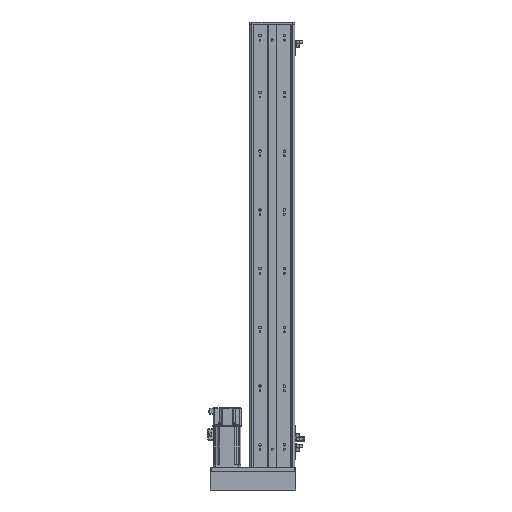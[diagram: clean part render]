
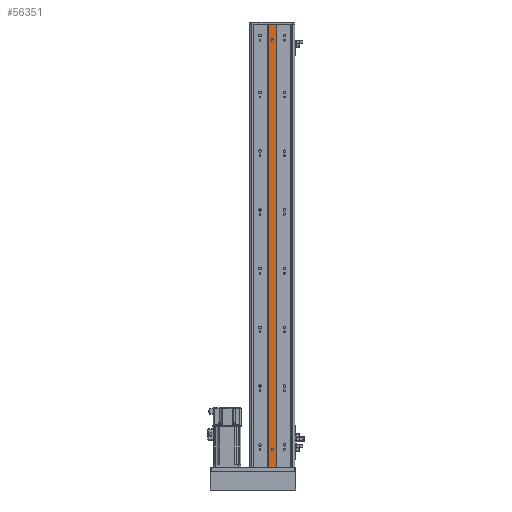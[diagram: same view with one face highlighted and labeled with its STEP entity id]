
A CAD part, front view. The second image highlights one B-rep face of the part: STEP entity #56351.
In plain terms, the highlighted planar face has unit normal (0, -1, 0).
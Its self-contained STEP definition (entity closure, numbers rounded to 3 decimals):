
#345 = DIRECTION ( 'NONE',  ( 0., 0., 1. ) ) ;
#1531 = CARTESIAN_POINT ( 'NONE',  ( 0., 1.309, 1076.5 ) ) ;
#2083 = DIRECTION ( 'NONE',  ( 1., 0., 0. ) ) ;
#2504 = ORIENTED_EDGE ( 'NONE', *, *, #53874, .T. ) ;
#3005 = CARTESIAN_POINT ( 'NONE',  ( 0., 1.309, 130. ) ) ;
#6478 = ORIENTED_EDGE ( 'NONE', *, *, #69452, .T. ) ;
#7696 = DIRECTION ( 'NONE',  ( 0., 0., -1. ) ) ;
#7845 = FACE_BOUND ( 'NONE', #24829, .T. ) ;
#8152 = EDGE_CURVE ( 'NONE', #37556, #62128, #10052, .T. ) ;
#8422 = ORIENTED_EDGE ( 'NONE', *, *, #22374, .T. ) ;
#9279 = ORIENTED_EDGE ( 'NONE', *, *, #50049, .T. ) ;
#9506 = FACE_OUTER_BOUND ( 'NONE', #35252, .T. ) ;
#9912 = AXIS2_PLACEMENT_3D ( 'NONE', #53527, #36931, #69212 ) ;
#10052 = CIRCLE ( 'NONE', #19803, 2.5 ) ;
#11213 = EDGE_LOOP ( 'NONE', ( #9279, #60822 ) ) ;
#11929 = CARTESIAN_POINT ( 'NONE',  ( 0., 1.309, 170. ) ) ;
#11931 = CIRCLE ( 'NONE', #20021, 2.5 ) ;
#11947 = AXIS2_PLACEMENT_3D ( 'NONE', #11929, #45024, #28250 ) ;
#12088 = EDGE_CURVE ( 'NONE', #67268, #41858, #55404, .T. ) ;
#12429 = CARTESIAN_POINT ( 'NONE',  ( -9., 1.309, 1111. ) ) ;
#12901 = VERTEX_POINT ( 'NONE', #35038 ) ;
#13893 = DIRECTION ( 'NONE',  ( -1., 0., 0. ) ) ;
#15076 = CARTESIAN_POINT ( 'NONE',  ( -9., 1.309, 130. ) ) ;
#15584 = ORIENTED_EDGE ( 'NONE', *, *, #48436, .F. ) ;
#16239 = DIRECTION ( 'NONE',  ( 0., 0., 1. ) ) ;
#17306 = ORIENTED_EDGE ( 'NONE', *, *, #54995, .F. ) ;
#18136 = CARTESIAN_POINT ( 'NONE',  ( -2.5, 1.309, 1075.5 ) ) ;
#19803 = AXIS2_PLACEMENT_3D ( 'NONE', #1531, #61016, #66207 ) ;
#19823 = VECTOR ( 'NONE', #40798, 1000. ) ;
#20021 = AXIS2_PLACEMENT_3D ( 'NONE', #54855, #48913, #345 ) ;
#22374 = EDGE_CURVE ( 'NONE', #12901, #57181, #11931, .T. ) ;
#24236 = CARTESIAN_POINT ( 'NONE',  ( -2.5, 1.309, 1111. ) ) ;
#24483 = EDGE_CURVE ( 'NONE', #59897, #39971, #28975, .T. ) ;
#24829 = EDGE_LOOP ( 'NONE', ( #2504, #62185, #30361, #8422 ) ) ;
#25264 = CARTESIAN_POINT ( 'NONE',  ( 2.5, 1.309, 1111. ) ) ;
#26882 = DIRECTION ( 'NONE',  ( 0., 0., -1. ) ) ;
#27192 = CARTESIAN_POINT ( 'NONE',  ( -2.5, 1.309, 170. ) ) ;
#28250 = DIRECTION ( 'NONE',  ( 0., 0., 1. ) ) ;
#28975 = CIRCLE ( 'NONE', #11947, 2.5 ) ;
#29150 = LINE ( 'NONE', #24236, #19823 ) ;
#30361 = ORIENTED_EDGE ( 'NONE', *, *, #52371, .T. ) ;
#31649 = CARTESIAN_POINT ( 'NONE',  ( 2.5, 1.309, 1076.5 ) ) ;
#31755 = VECTOR ( 'NONE', #41927, 1000. ) ;
#32323 = CARTESIAN_POINT ( 'NONE',  ( 9., 1.309, 1111. ) ) ;
#34535 = CARTESIAN_POINT ( 'NONE',  ( -9., 1.309, 1111. ) ) ;
#35038 = CARTESIAN_POINT ( 'NONE',  ( 2.5, 1.309, 1075.5 ) ) ;
#35252 = EDGE_LOOP ( 'NONE', ( #17306, #55087, #15584, #6478 ) ) ;
#36898 = CARTESIAN_POINT ( 'NONE',  ( 2.5, 1.309, 170. ) ) ;
#36931 = DIRECTION ( 'NONE',  ( 0., 1., 0. ) ) ;
#37556 = VERTEX_POINT ( 'NONE', #59510 ) ;
#38127 = VECTOR ( 'NONE', #7696, 1000. ) ;
#38277 = LINE ( 'NONE', #3005, #52721 ) ;
#39134 = CARTESIAN_POINT ( 'NONE',  ( 9., 1.309, 1111. ) ) ;
#39501 = CARTESIAN_POINT ( 'NONE',  ( -9., 1.309, 1111. ) ) ;
#39971 = VERTEX_POINT ( 'NONE', #36898 ) ;
#40798 = DIRECTION ( 'NONE',  ( 0., 0., 1. ) ) ;
#41368 = CARTESIAN_POINT ( 'NONE',  ( 0., 1.309, 170. ) ) ;
#41858 = VERTEX_POINT ( 'NONE', #55441 ) ;
#41927 = DIRECTION ( 'NONE',  ( 0., 0., -1. ) ) ;
#42400 = LINE ( 'NONE', #12429, #38127 ) ;
#44202 = FACE_BOUND ( 'NONE', #11213, .T. ) ;
#45024 = DIRECTION ( 'NONE',  ( 0., 1., 0. ) ) ;
#47085 = CIRCLE ( 'NONE', #53704, 2.5 ) ;
#47603 = PLANE ( 'NONE',  #9912 ) ;
#47863 = LINE ( 'NONE', #25264, #31755 ) ;
#48436 = EDGE_CURVE ( 'NONE', #61511, #67268, #65850, .T. ) ;
#48913 = DIRECTION ( 'NONE',  ( 0., 1., 0. ) ) ;
#50049 = EDGE_CURVE ( 'NONE', #39971, #59897, #47085, .T. ) ;
#51462 = VECTOR ( 'NONE', #2083, 1000. ) ;
#52371 = EDGE_CURVE ( 'NONE', #62128, #12901, #47863, .T. ) ;
#52721 = VECTOR ( 'NONE', #13893, 1000. ) ;
#53527 = CARTESIAN_POINT ( 'NONE',  ( 0., 1.309, 1111. ) ) ;
#53704 = AXIS2_PLACEMENT_3D ( 'NONE', #41368, #57729, #16239 ) ;
#53874 = EDGE_CURVE ( 'NONE', #57181, #37556, #29150, .T. ) ;
#54855 = CARTESIAN_POINT ( 'NONE',  ( 0., 1.309, 1075.5 ) ) ;
#54995 = EDGE_CURVE ( 'NONE', #41858, #55866, #38277, .T. ) ;
#55087 = ORIENTED_EDGE ( 'NONE', *, *, #12088, .F. ) ;
#55404 = LINE ( 'NONE', #32323, #64688 ) ;
#55441 = CARTESIAN_POINT ( 'NONE',  ( 9., 1.309, 130. ) ) ;
#55866 = VERTEX_POINT ( 'NONE', #15076 ) ;
#56351 = ADVANCED_FACE ( 'NONE', ( #7845, #44202, #9506 ), #47603, .F. ) ;
#57181 = VERTEX_POINT ( 'NONE', #18136 ) ;
#57729 = DIRECTION ( 'NONE',  ( 0., 1., 0. ) ) ;
#59510 = CARTESIAN_POINT ( 'NONE',  ( -2.5, 1.309, 1076.5 ) ) ;
#59897 = VERTEX_POINT ( 'NONE', #27192 ) ;
#60822 = ORIENTED_EDGE ( 'NONE', *, *, #24483, .T. ) ;
#61016 = DIRECTION ( 'NONE',  ( 0., 1., 0. ) ) ;
#61511 = VERTEX_POINT ( 'NONE', #39501 ) ;
#62128 = VERTEX_POINT ( 'NONE', #31649 ) ;
#62185 = ORIENTED_EDGE ( 'NONE', *, *, #8152, .T. ) ;
#64688 = VECTOR ( 'NONE', #26882, 1000. ) ;
#65850 = LINE ( 'NONE', #34535, #51462 ) ;
#66207 = DIRECTION ( 'NONE',  ( 0., 0., 1. ) ) ;
#67268 = VERTEX_POINT ( 'NONE', #39134 ) ;
#69212 = DIRECTION ( 'NONE',  ( 0., 0., 1. ) ) ;
#69452 = EDGE_CURVE ( 'NONE', #61511, #55866, #42400, .T. ) ;
